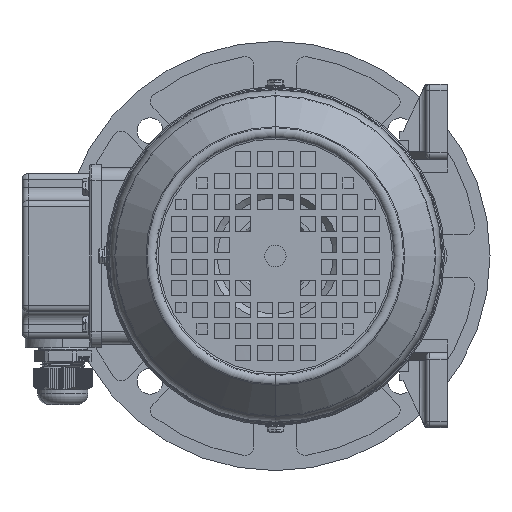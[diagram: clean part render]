
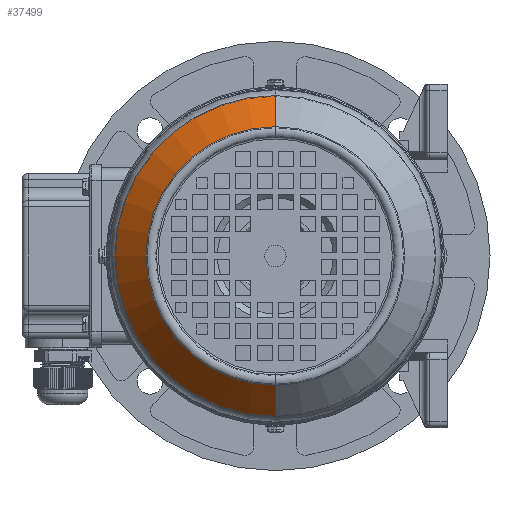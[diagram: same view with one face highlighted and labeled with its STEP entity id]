
A CAD part, left-side view. The second image highlights one B-rep face of the part: STEP entity #37499.
In plain terms, the highlighted conical face has half-angle 41.927 degrees and reference radius 77.3 mm.
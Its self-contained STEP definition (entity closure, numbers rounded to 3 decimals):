
#667 = ORIENTED_EDGE ( 'NONE', *, *, #90764, .F. ) ;
#7177 = FACE_OUTER_BOUND ( 'NONE', #101710, .T. ) ;
#7934 = AXIS2_PLACEMENT_3D ( 'NONE', #26589, #17291, #85524 ) ;
#16368 = EDGE_CURVE ( 'NONE', #40003, #40037, #84453, .T. ) ;
#17291 = DIRECTION ( 'NONE',  ( -1., 0., 0. ) ) ;
#17677 = CONICAL_SURFACE ( 'NONE', #97605, 77.3, 0.732 ) ;
#18411 = DIRECTION ( 'NONE',  ( 0.744, 0., -0.668 ) ) ;
#21365 = EDGE_CURVE ( 'NONE', #53713, #106522, #92422, .T. ) ;
#26589 = CARTESIAN_POINT ( 'NONE',  ( -58.851, 0., 0. ) ) ;
#28891 = CARTESIAN_POINT ( 'NONE',  ( -75.005, 0., 0. ) ) ;
#34175 = ORIENTED_EDGE ( 'NONE', *, *, #21365, .T. ) ;
#37499 = ADVANCED_FACE ( 'NONE', ( #7177 ), #17677, .T. ) ;
#40003 = VERTEX_POINT ( 'NONE', #91263 ) ;
#40037 = VERTEX_POINT ( 'NONE', #51876 ) ;
#47140 = CARTESIAN_POINT ( 'NONE',  ( -58.851, 0., 74.74 ) ) ;
#47373 = VECTOR ( 'NONE', #18411, 1000. ) ;
#51876 = CARTESIAN_POINT ( 'NONE',  ( -58.851, 0., -74.74 ) ) ;
#53713 = VERTEX_POINT ( 'NONE', #85742 ) ;
#63104 = DIRECTION ( 'NONE',  ( 0., 0., 1. ) ) ;
#66843 = DIRECTION ( 'NONE',  ( 0.744, 0., 0.668 ) ) ;
#67814 = CIRCLE ( 'NONE', #7934, 74.74 ) ;
#69210 = CARTESIAN_POINT ( 'NONE',  ( -56., 0., -77.3 ) ) ;
#70406 = DIRECTION ( 'NONE',  ( 1., 0., 0. ) ) ;
#71005 = AXIS2_PLACEMENT_3D ( 'NONE', #28891, #80083, #63104 ) ;
#76532 = CIRCLE ( 'NONE', #71005, 60.232 ) ;
#79287 = DIRECTION ( 'NONE',  ( 0., 0., -1. ) ) ;
#80083 = DIRECTION ( 'NONE',  ( -1., 0., 0. ) ) ;
#81762 = VECTOR ( 'NONE', #66843, 1000. ) ;
#82607 = ORIENTED_EDGE ( 'NONE', *, *, #86836, .T. ) ;
#83159 = CARTESIAN_POINT ( 'NONE',  ( -56., 0., 77.3 ) ) ;
#84453 = LINE ( 'NONE', #69210, #47373 ) ;
#85524 = DIRECTION ( 'NONE',  ( 0., 0., 1. ) ) ;
#85742 = CARTESIAN_POINT ( 'NONE',  ( -75.005, 0., 60.232 ) ) ;
#86836 = EDGE_CURVE ( 'NONE', #106522, #40037, #67814, .T. ) ;
#90764 = EDGE_CURVE ( 'NONE', #53713, #40003, #76532, .T. ) ;
#91263 = CARTESIAN_POINT ( 'NONE',  ( -75.005, 0., -60.232 ) ) ;
#92422 = LINE ( 'NONE', #83159, #81762 ) ;
#95641 = CARTESIAN_POINT ( 'NONE',  ( -56., 0., 0. ) ) ;
#97605 = AXIS2_PLACEMENT_3D ( 'NONE', #95641, #70406, #79287 ) ;
#101414 = ORIENTED_EDGE ( 'NONE', *, *, #16368, .F. ) ;
#101710 = EDGE_LOOP ( 'NONE', ( #667, #34175, #82607, #101414 ) ) ;
#106522 = VERTEX_POINT ( 'NONE', #47140 ) ;
